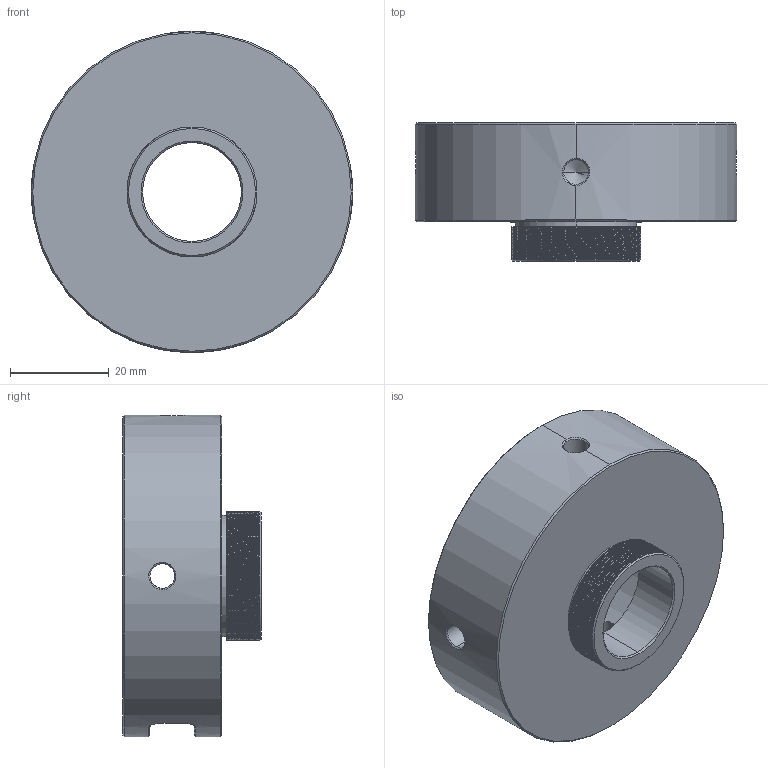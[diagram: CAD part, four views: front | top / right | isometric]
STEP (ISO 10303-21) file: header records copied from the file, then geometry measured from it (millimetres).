
FILE_DESCRIPTION (( 'STEP AP214' ), '1' );
FILE_NAME ('萇雄毀扞噩標撿.STEP', '2026-09-11T02:30:12', ( '' ), ( '' ), 'SwSTEP 2.0', 'SolidWorks 2024', '' );
FILE_SCHEMA (( 'AUTOMOTIVE_DESIGN' ));
Length unit declared in the file: millimetre
Products named in the file (1): 电动反射镜夹具
Bounding box: 65 x 28 x 65 mm (x, y, z)
Volume: 35351.8 mm3; surface area: 14833.2 mm2
Topology: 1 solids, 1 shells, 104 faces, 282 edges, 179 vertices
Faces by surface type: cylinder 64, cone 15, bspline 13, plane 12
Entity records: 10836 total; most frequent: CARTESIAN_POINT 8580, ORIENTED_EDGE 560, DIRECTION 363, EDGE_CURVE 280, VERTEX_POINT 179, AXIS2_PLACEMENT_3D 135, EDGE_LOOP 113, ADVANCED_FACE 104
